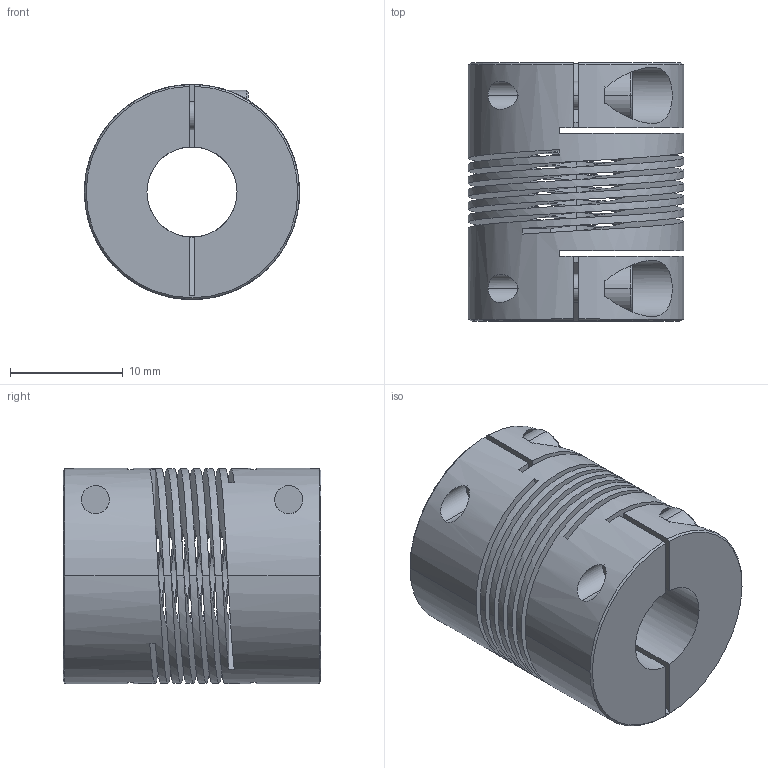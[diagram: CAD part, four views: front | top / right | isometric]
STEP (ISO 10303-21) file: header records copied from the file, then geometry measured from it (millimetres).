
FILE_DESCRIPTION((''),'2;1');
FILE_NAME('725_19','2006-12-05T',('Gary Melling'),(''),'PRO/ENGINEER BY PARAMETRIC TECHNOLOGY CORPORATION, 2006240','PRO/ENGINEER BY PARAMETRIC TECHNOLOGY CORPORATION, 2006240','');
FILE_SCHEMA(('CONFIG_CONTROL_DESIGN'));
Length unit declared in the file: millimetre
Products named in the file (1): 725_19
Bounding box: 19.1 x 22.9 x 19.1 mm (x, y, z)
Volume: 4302.1 mm3; surface area: 5832.5 mm2
Topology: 1 solids, 1 shells, 103 faces, 291 edges, 192 vertices
Faces by surface type: plane 50, cylinder 41, bspline 6, cone 6
Entity records: 5278 total; most frequent: CARTESIAN_POINT 2645, ORIENTED_EDGE 582, DIRECTION 475, EDGE_CURVE 291, VERTEX_POINT 192, AXIS2_PLACEMENT_3D 159, VECTOR 157, LINE 157
